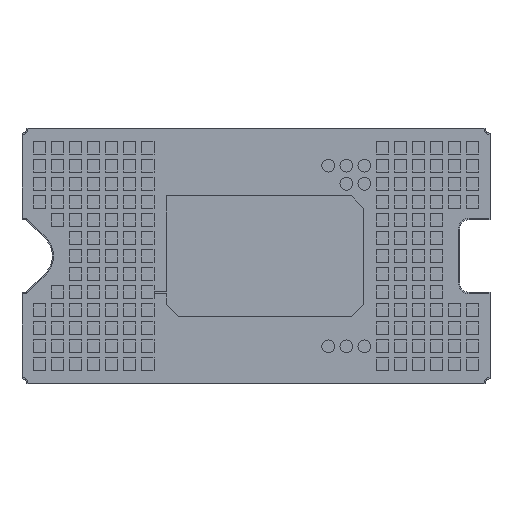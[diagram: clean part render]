
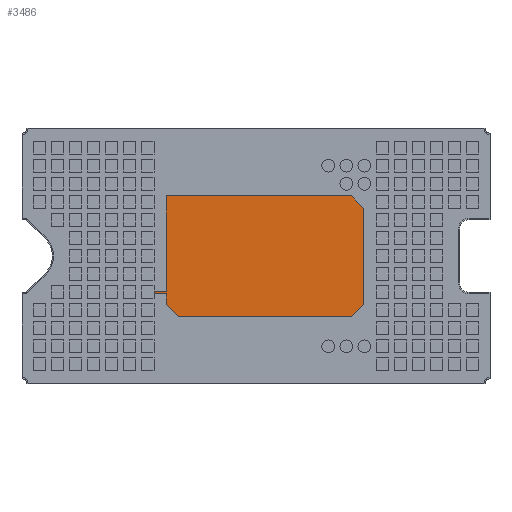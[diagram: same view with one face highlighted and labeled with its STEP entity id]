
A CAD part, front view. The second image highlights one B-rep face of the part: STEP entity #3486.
In plain terms, the highlighted planar face has unit normal (0, -1, 0).
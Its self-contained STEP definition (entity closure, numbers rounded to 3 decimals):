
#20 = ORIENTED_EDGE ( 'NONE', *, *, #289, .F. ) ;
#34 = ORIENTED_EDGE ( 'NONE', *, *, #472, .F. ) ;
#280 = VERTEX_POINT ( 'NONE', #5947 ) ;
#289 = EDGE_CURVE ( 'NONE', #2533, #312, #3091, .T. ) ;
#312 = VERTEX_POINT ( 'NONE', #3571 ) ;
#366 = DIRECTION ( 'NONE',  ( 1., 0., 0. ) ) ;
#435 = LINE ( 'NONE', #5631, #3685 ) ;
#471 = EDGE_CURVE ( 'NONE', #312, #4072, #1939, .T. ) ;
#472 = EDGE_CURVE ( 'NONE', #3053, #280, #5594, .T. ) ;
#480 = CARTESIAN_POINT ( 'NONE',  ( 3.565, 0., 2.485 ) ) ;
#485 = VECTOR ( 'NONE', #1016, 1000. ) ;
#523 = CARTESIAN_POINT ( 'NONE',  ( -4.065, 0., 2.485 ) ) ;
#566 = EDGE_CURVE ( 'NONE', #4618, #4278, #4817, .T. ) ;
#612 = CARTESIAN_POINT ( 'NONE',  ( 3.565, 0., -2.485 ) ) ;
#643 = LINE ( 'NONE', #5940, #3671 ) ;
#718 = DIRECTION ( 'NONE',  ( 0., 0., 1. ) ) ;
#733 = ORIENTED_EDGE ( 'NONE', *, *, #3893, .T. ) ;
#762 = DIRECTION ( 'NONE',  ( -0.707, 0., 0.707 ) ) ;
#764 = CARTESIAN_POINT ( 'NONE',  ( 4.065, 0., 2.485 ) ) ;
#821 = VECTOR ( 'NONE', #718, 1000. ) ;
#1016 = DIRECTION ( 'NONE',  ( 0.707, 0., -0.707 ) ) ;
#1108 = DIRECTION ( 'NONE',  ( 0., 1., 0. ) ) ;
#1194 = PLANE ( 'NONE',  #5775 ) ;
#1351 = DIRECTION ( 'NONE',  ( 0., 0., 1. ) ) ;
#1601 = CARTESIAN_POINT ( 'NONE',  ( -4.065, 0., -1.985 ) ) ;
#1609 = EDGE_CURVE ( 'NONE', #4072, #5574, #4785, .T. ) ;
#1628 = DIRECTION ( 'NONE',  ( -1., 0., 0. ) ) ;
#1683 = EDGE_CURVE ( 'NONE', #5832, #4363, #4896, .T. ) ;
#1707 = CARTESIAN_POINT ( 'NONE',  ( 4.065, 0., 1.985 ) ) ;
#1939 = LINE ( 'NONE', #4753, #4217 ) ;
#2091 = DIRECTION ( 'NONE',  ( 0., 0., 1. ) ) ;
#2203 = ORIENTED_EDGE ( 'NONE', *, *, #4141, .F. ) ;
#2204 = CARTESIAN_POINT ( 'NONE',  ( -4.065, 0., -2.485 ) ) ;
#2317 = CARTESIAN_POINT ( 'NONE',  ( 4.065, 0., -2.485 ) ) ;
#2423 = DIRECTION ( 'NONE',  ( -1., 0., 0. ) ) ;
#2533 = VERTEX_POINT ( 'NONE', #5912 ) ;
#2587 = EDGE_CURVE ( 'NONE', #3053, #5574, #643, .T. ) ;
#2692 = CARTESIAN_POINT ( 'NONE',  ( -4.065, 0., -1.985 ) ) ;
#2780 = VECTOR ( 'NONE', #366, 1000. ) ;
#2828 = DIRECTION ( 'NONE',  ( 1., 0., 0. ) ) ;
#2946 = LINE ( 'NONE', #3524, #4405 ) ;
#3021 = ORIENTED_EDGE ( 'NONE', *, *, #566, .T. ) ;
#3053 = VERTEX_POINT ( 'NONE', #1707 ) ;
#3071 = ORIENTED_EDGE ( 'NONE', *, *, #1609, .F. ) ;
#3091 = LINE ( 'NONE', #3184, #2780 ) ;
#3184 = CARTESIAN_POINT ( 'NONE',  ( -4.065, 0., -1.435 ) ) ;
#3192 = ORIENTED_EDGE ( 'NONE', *, *, #1683, .F. ) ;
#3203 = ORIENTED_EDGE ( 'NONE', *, *, #471, .F. ) ;
#3207 = EDGE_CURVE ( 'NONE', #4363, #2533, #435, .T. ) ;
#3269 = CARTESIAN_POINT ( 'NONE',  ( -3.565, 0., -2.485 ) ) ;
#3387 = DIRECTION ( 'NONE',  ( 0.707, 0., 0.707 ) ) ;
#3415 = ORIENTED_EDGE ( 'NONE', *, *, #2587, .T. ) ;
#3453 = CARTESIAN_POINT ( 'NONE',  ( 3.565, 0., -2.485 ) ) ;
#3486 = ADVANCED_FACE ( 'NONE', ( #3600 ), #1194, .F. ) ;
#3524 = CARTESIAN_POINT ( 'NONE',  ( -4.065, 0., -2.485 ) ) ;
#3571 = CARTESIAN_POINT ( 'NONE',  ( -4.065, 0., -1.435 ) ) ;
#3600 = FACE_OUTER_BOUND ( 'NONE', #3758, .T. ) ;
#3647 = LINE ( 'NONE', #2204, #821 ) ;
#3671 = VECTOR ( 'NONE', #762, 1000. ) ;
#3685 = VECTOR ( 'NONE', #1351, 1000. ) ;
#3758 = EDGE_LOOP ( 'NONE', ( #5557, #3021, #2203, #733, #34, #3415, #3071, #3203, #20, #5123, #3192 ) ) ;
#3777 = VERTEX_POINT ( 'NONE', #612 ) ;
#3893 = EDGE_CURVE ( 'NONE', #3777, #280, #5255, .T. ) ;
#4072 = VERTEX_POINT ( 'NONE', #5837 ) ;
#4141 = EDGE_CURVE ( 'NONE', #3777, #4278, #2946, .T. ) ;
#4217 = VECTOR ( 'NONE', #4660, 1000. ) ;
#4226 = DIRECTION ( 'NONE',  ( 0., 0., -1. ) ) ;
#4278 = VERTEX_POINT ( 'NONE', #3269 ) ;
#4331 = VECTOR ( 'NONE', #2423, 1000. ) ;
#4363 = VERTEX_POINT ( 'NONE', #5290 ) ;
#4405 = VECTOR ( 'NONE', #1628, 1000. ) ;
#4618 = VERTEX_POINT ( 'NONE', #2692 ) ;
#4650 = EDGE_CURVE ( 'NONE', #4618, #5832, #3647, .T. ) ;
#4660 = DIRECTION ( 'NONE',  ( 0., 0., 1. ) ) ;
#4753 = CARTESIAN_POINT ( 'NONE',  ( -4.065, 0., -2.485 ) ) ;
#4785 = LINE ( 'NONE', #523, #5030 ) ;
#4801 = CARTESIAN_POINT ( 'NONE',  ( -4.065, 0., -1.535 ) ) ;
#4812 = VECTOR ( 'NONE', #3387, 1000. ) ;
#4817 = LINE ( 'NONE', #1601, #485 ) ;
#4896 = LINE ( 'NONE', #4801, #4331 ) ;
#5014 = VECTOR ( 'NONE', #4226, 1000. ) ;
#5030 = VECTOR ( 'NONE', #2828, 1000. ) ;
#5123 = ORIENTED_EDGE ( 'NONE', *, *, #3207, .F. ) ;
#5255 = LINE ( 'NONE', #3453, #4812 ) ;
#5290 = CARTESIAN_POINT ( 'NONE',  ( -4.565, 0., -1.535 ) ) ;
#5386 = CARTESIAN_POINT ( 'NONE',  ( -4.065, 0., -1.535 ) ) ;
#5557 = ORIENTED_EDGE ( 'NONE', *, *, #4650, .F. ) ;
#5574 = VERTEX_POINT ( 'NONE', #480 ) ;
#5594 = LINE ( 'NONE', #2317, #5014 ) ;
#5631 = CARTESIAN_POINT ( 'NONE',  ( -4.565, 0., -1.535 ) ) ;
#5775 = AXIS2_PLACEMENT_3D ( 'NONE', #764, #1108, #2091 ) ;
#5832 = VERTEX_POINT ( 'NONE', #5386 ) ;
#5837 = CARTESIAN_POINT ( 'NONE',  ( -4.065, 0., 2.485 ) ) ;
#5912 = CARTESIAN_POINT ( 'NONE',  ( -4.565, 0., -1.435 ) ) ;
#5940 = CARTESIAN_POINT ( 'NONE',  ( 4.065, 0., 1.985 ) ) ;
#5947 = CARTESIAN_POINT ( 'NONE',  ( 4.065, 0., -1.985 ) ) ;
